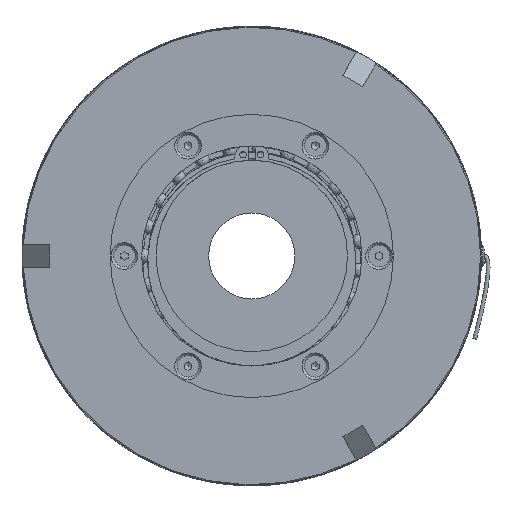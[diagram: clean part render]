
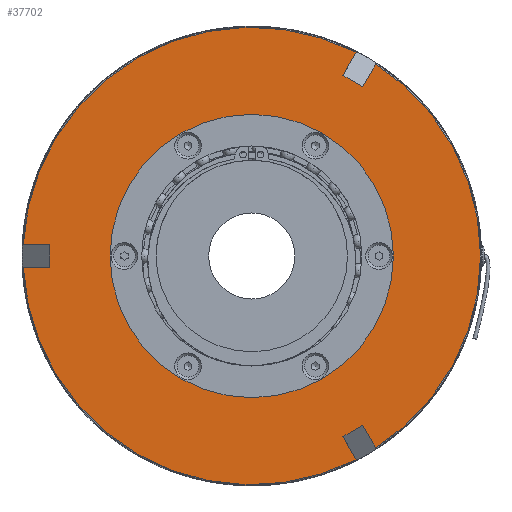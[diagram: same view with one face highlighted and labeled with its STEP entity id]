
A CAD part, left-side view. The second image highlights one B-rep face of the part: STEP entity #37702.
In plain terms, the highlighted planar face has unit normal (-1, 0, 0).
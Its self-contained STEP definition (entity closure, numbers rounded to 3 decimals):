
#301=FACE_BOUND('',#5326,.T.);
#1260=PLANE('',#41599);
#3162=FACE_OUTER_BOUND('',#5325,.T.);
#5325=EDGE_LOOP('',(#30828,#30829,#30830,#30831,#30832,#30833,#30834,#30835,
#30836,#30837,#30838,#30839));
#5326=EDGE_LOOP('',(#30840,#30841));
#9520=CIRCLE('',#41600,119.5);
#9521=CIRCLE('',#41601,119.5);
#9522=CIRCLE('',#41602,119.5);
#9523=CIRCLE('',#41603,74.);
#9524=CIRCLE('',#41604,74.);
#11199=LINE('',#66639,#13356);
#11201=LINE('',#66654,#13358);
#11203=LINE('',#66667,#13360);
#11204=LINE('',#66671,#13361);
#11207=LINE('',#66689,#13364);
#11210=LINE('',#66706,#13367);
#11211=LINE('',#66712,#13368);
#11212=LINE('',#66714,#13369);
#11213=LINE('',#66716,#13370);
#13356=VECTOR('',#51131,10.);
#13358=VECTOR('',#51135,10.);
#13360=VECTOR('',#51139,10.);
#13361=VECTOR('',#51142,10.);
#13364=VECTOR('',#51147,10.);
#13367=VECTOR('',#51154,10.);
#13368=VECTOR('',#51161,10.);
#13369=VECTOR('',#51162,10.);
#13370=VECTOR('',#51163,10.);
#16623=VERTEX_POINT('',#66637);
#16624=VERTEX_POINT('',#66638);
#16625=VERTEX_POINT('',#66652);
#16626=VERTEX_POINT('',#66653);
#16627=VERTEX_POINT('',#66669);
#16628=VERTEX_POINT('',#66670);
#16631=VERTEX_POINT('',#66687);
#16632=VERTEX_POINT('',#66688);
#16635=VERTEX_POINT('',#66709);
#16636=VERTEX_POINT('',#66711);
#16637=VERTEX_POINT('',#66713);
#16638=VERTEX_POINT('',#66715);
#16639=VERTEX_POINT('',#66718);
#16640=VERTEX_POINT('',#66719);
#21670=EDGE_CURVE('',#16623,#16624,#11199,.T.);
#21673=EDGE_CURVE('',#16625,#16626,#11201,.T.);
#21676=EDGE_CURVE('',#16626,#16623,#11203,.T.);
#21677=EDGE_CURVE('',#16627,#16628,#11204,.T.);
#21681=EDGE_CURVE('',#16631,#16632,#11207,.T.);
#21686=EDGE_CURVE('',#16632,#16627,#11210,.T.);
#21687=EDGE_CURVE('',#16631,#16624,#9520,.T.);
#21688=EDGE_CURVE('',#16635,#16628,#9521,.T.);
#21689=EDGE_CURVE('',#16635,#16636,#11211,.T.);
#21690=EDGE_CURVE('',#16636,#16637,#11212,.T.);
#21691=EDGE_CURVE('',#16637,#16638,#11213,.T.);
#21692=EDGE_CURVE('',#16625,#16638,#9522,.T.);
#21693=EDGE_CURVE('',#16639,#16640,#9523,.T.);
#21694=EDGE_CURVE('',#16640,#16639,#9524,.T.);
#30828=ORIENTED_EDGE('',*,*,#21673,.T.);
#30829=ORIENTED_EDGE('',*,*,#21676,.T.);
#30830=ORIENTED_EDGE('',*,*,#21670,.T.);
#30831=ORIENTED_EDGE('',*,*,#21687,.F.);
#30832=ORIENTED_EDGE('',*,*,#21681,.T.);
#30833=ORIENTED_EDGE('',*,*,#21686,.T.);
#30834=ORIENTED_EDGE('',*,*,#21677,.T.);
#30835=ORIENTED_EDGE('',*,*,#21688,.F.);
#30836=ORIENTED_EDGE('',*,*,#21689,.T.);
#30837=ORIENTED_EDGE('',*,*,#21690,.T.);
#30838=ORIENTED_EDGE('',*,*,#21691,.T.);
#30839=ORIENTED_EDGE('',*,*,#21692,.F.);
#30840=ORIENTED_EDGE('',*,*,#21693,.T.);
#30841=ORIENTED_EDGE('',*,*,#21694,.T.);
#37702=ADVANCED_FACE('',(#3162,#301),#1260,.T.);
#41599=AXIS2_PLACEMENT_3D('',#66707,#51155,#51156);
#41600=AXIS2_PLACEMENT_3D('',#66708,#51157,#51158);
#41601=AXIS2_PLACEMENT_3D('',#66710,#51159,#51160);
#41602=AXIS2_PLACEMENT_3D('',#66717,#51164,#51165);
#41603=AXIS2_PLACEMENT_3D('',#66720,#51166,#51167);
#41604=AXIS2_PLACEMENT_3D('',#66721,#51168,#51169);
#51131=DIRECTION('',(0.,-0.5,-0.866));
#51135=DIRECTION('',(0.,0.5,0.866));
#51139=DIRECTION('',(0.,-0.866,0.5));
#51142=DIRECTION('',(0.,-0.5,0.866));
#51147=DIRECTION('',(0.,0.5,-0.866));
#51154=DIRECTION('',(0.,0.866,0.5));
#51155=DIRECTION('center_axis',(-1.,0.,0.));
#51156=DIRECTION('ref_axis',(0.,0.,-1.));
#51157=DIRECTION('center_axis',(1.,0.,0.));
#51158=DIRECTION('ref_axis',(0.,1.,0.));
#51159=DIRECTION('center_axis',(1.,0.,0.));
#51160=DIRECTION('ref_axis',(0.,1.,0.));
#51161=DIRECTION('',(0.,-1.,0.));
#51162=DIRECTION('',(0.,0.,-1.));
#51163=DIRECTION('',(0.,1.,0.));
#51164=DIRECTION('center_axis',(1.,0.,0.));
#51165=DIRECTION('ref_axis',(0.,1.,0.));
#51166=DIRECTION('center_axis',(1.,0.,0.));
#51167=DIRECTION('ref_axis',(0.,0.,1.));
#51168=DIRECTION('center_axis',(1.,0.,0.));
#51169=DIRECTION('ref_axis',(0.,0.,1.));
#66637=CARTESIAN_POINT('',(-37.,-57.979,-88.422));
#66638=CARTESIAN_POINT('',(-37.,-64.871,-100.36));
#66639=CARTESIAN_POINT('',(-37.,-49.276,-73.348));
#66652=CARTESIAN_POINT('',(-37.,-54.478,-106.36));
#66653=CARTESIAN_POINT('',(-37.,-47.586,-94.422));
#66654=CARTESIAN_POINT('',(-37.,-38.883,-79.348));
#66667=CARTESIAN_POINT('',(-37.,-97.782,-65.441));
#66669=CARTESIAN_POINT('',(-37.,-47.586,94.422));
#66670=CARTESIAN_POINT('',(-37.,-54.478,106.36));
#66671=CARTESIAN_POINT('',(-37.,-38.883,79.348));
#66687=CARTESIAN_POINT('',(-37.,-64.871,100.36));
#66688=CARTESIAN_POINT('',(-37.,-57.979,88.422));
#66689=CARTESIAN_POINT('',(-37.,-49.276,73.348));
#66706=CARTESIAN_POINT('',(-37.,-97.782,65.441));
#66707=CARTESIAN_POINT('Origin',(-37.,-120.,0.));
#66708=CARTESIAN_POINT('Origin',(-37.,0.,0.));
#66709=CARTESIAN_POINT('',(-37.,119.349,6.));
#66710=CARTESIAN_POINT('Origin',(-37.,0.,0.));
#66711=CARTESIAN_POINT('',(-37.,105.565,6.));
#66712=CARTESIAN_POINT('',(-37.,-1.841,6.));
#66713=CARTESIAN_POINT('',(-37.,105.565,-6.));
#66714=CARTESIAN_POINT('',(-37.,105.565,0.));
#66715=CARTESIAN_POINT('',(-37.,119.349,-6.));
#66716=CARTESIAN_POINT('',(-37.,-1.841,-6.));
#66717=CARTESIAN_POINT('Origin',(-37.,0.,0.));
#66718=CARTESIAN_POINT('',(-37.,-74.,0.));
#66719=CARTESIAN_POINT('',(-37.,74.,0.));
#66720=CARTESIAN_POINT('Origin',(-37.,0.,0.));
#66721=CARTESIAN_POINT('Origin',(-37.,0.,0.));
